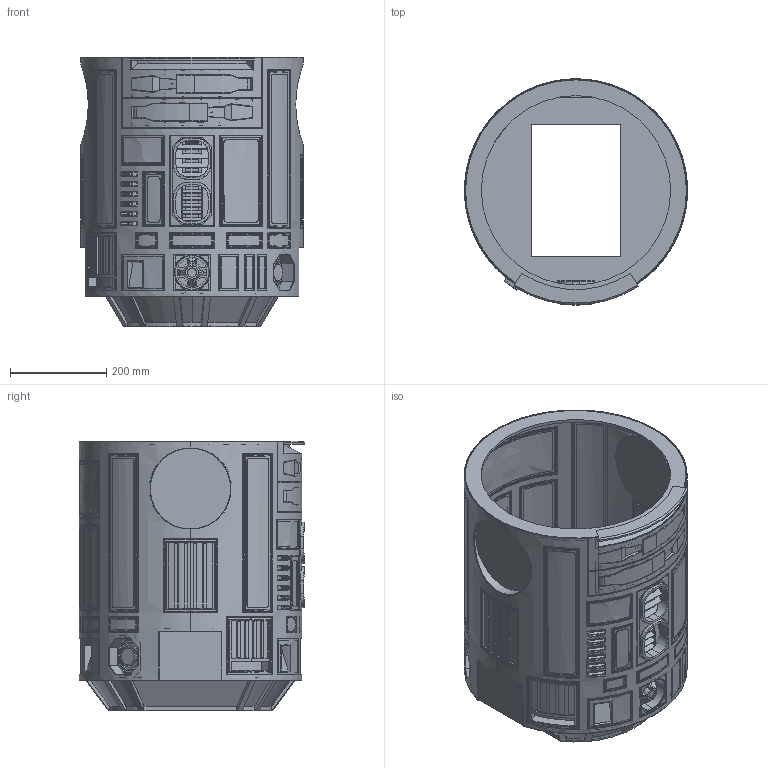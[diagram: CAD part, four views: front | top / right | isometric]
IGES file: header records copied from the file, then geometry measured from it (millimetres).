
Start section: 3D InterOp IGES (Version 21 0 3), Spatial Corp. Copyright (c) 1999-2007.
Global section: file name: CSR Body Assembly ESB - 20140506.igs; native system: Spatial Corp.; preprocessor: 3D InterOp GENERIC/IGES 3.0; author: Noname; organization: Noname; date: 20140522.013854; units: inch
Bounding box: 463.55 x 469.89 x 560.39 mm (x, y, z)
Surface area: 3466726.4 mm2 (no closed solid volume)
Topology: 0 solids, 0 shells, 2559 faces, 12886 edges, 12886 vertices
Faces by surface type: extrusion 2017, revolution 338, bspline 153, offset 51
